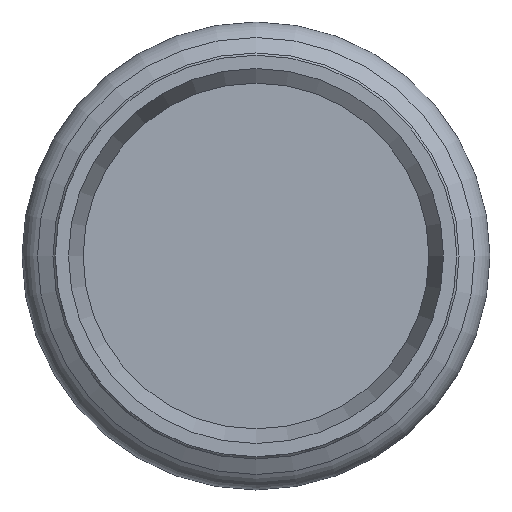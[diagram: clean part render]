
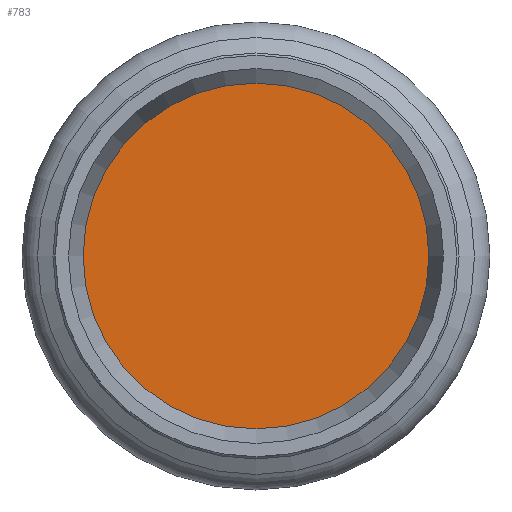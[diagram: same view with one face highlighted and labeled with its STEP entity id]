
A CAD part, left-side view. The second image highlights one B-rep face of the part: STEP entity #783.
In plain terms, the highlighted planar face has unit normal (-1, 0, 0) as drawn and (0, 0, 1) by its records, which use the part's own axes.
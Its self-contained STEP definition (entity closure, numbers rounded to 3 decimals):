
#752=CARTESIAN_POINT('',(21.0,0.,1.5));
#753=VERTEX_POINT('',#752);
#754=CARTESIAN_POINT('',(0.0,0.0,1.5));
#755=DIRECTION('',(0.0,0.0,-1.0));
#756=DIRECTION('',(-1.0,0.0,0.0));
#757=AXIS2_PLACEMENT_3D('',#754,#755,#756);
#758=CIRCLE('',#757,21.0);
#759=EDGE_CURVE('',#753,#753,#758,.T.);
#775=CARTESIAN_POINT('',(0.0,0.0,1.5));
#776=DIRECTION('',(0.0,0.0,-1.0));
#777=DIRECTION('',(-1.0,0.0,0.0));
#778=AXIS2_PLACEMENT_3D('',#775,#776,#777);
#779=PLANE('',#778);
#780=ORIENTED_EDGE('',*,*,#759,.F.);
#781=EDGE_LOOP('',(#780));
#782=FACE_OUTER_BOUND('',#781,.T.);
#783=ADVANCED_FACE('',(#782),#779,.F.);
